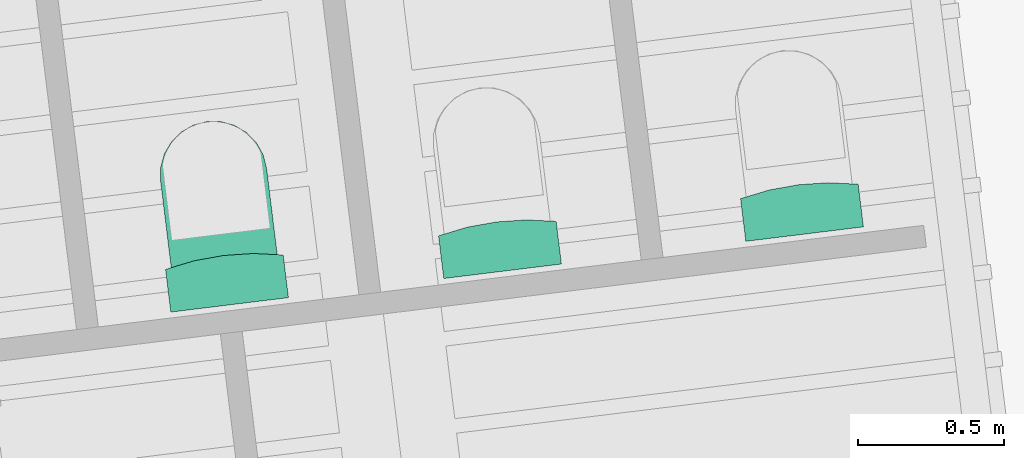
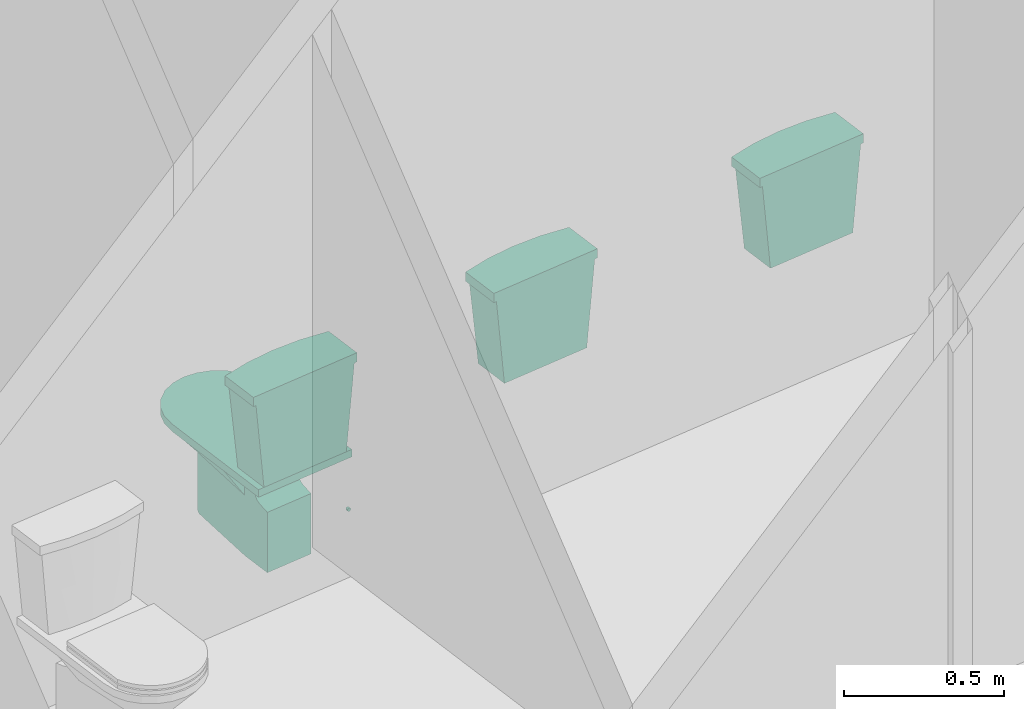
# One storey, part 53 of 75: 4 flow terminals.
"""IFC2X3 building model written with IfcOpenShell, lengths in metres."""

from ifc_helpers import new_model, entity, si_unit, converted_unit, derived_unit, direction, frame, origin, place, context, subcontext, project, spatial, faceted_brep, source, transform, mapped, material, material_list, type_object, type_shapes, element, save


model = new_model("IFC2X3")

# Units and contexts
model_context = context("Model", 3, precision=1e-05, world=origin(), true_north=direction((6.123031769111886e-17, 1.0)))
body_context = subcontext(model_context, "Body", "Model", "MODEL_VIEW")
ifc_project = project(units=[si_unit("LENGTHUNIT", "METRE"), si_unit("AREAUNIT", "SQUARE_METRE"), si_unit("VOLUMEUNIT", "CUBIC_METRE"), converted_unit("PLANEANGLEUNIT", "DEGREE", entity("IfcRatioMeasure", 0.017453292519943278), si_unit("PLANEANGLEUNIT", "RADIAN"), dimensions=[0, 0, 0, 0, 0, 0, 0]), si_unit("MASSUNIT", "GRAM", prefix="KILO"), derived_unit("MASSDENSITYUNIT", [(si_unit("MASSUNIT", "GRAM", prefix="KILO"), 1), (si_unit("LENGTHUNIT", "METRE"), -3)]), derived_unit("IONCONCENTRATIONUNIT", [(si_unit("MASSUNIT", "GRAM", prefix="KILO"), 1), (si_unit("LENGTHUNIT", "METRE"), -3)]), derived_unit("MOMENTOFINERTIAUNIT", [(si_unit("LENGTHUNIT", "METRE"), 4)]), si_unit("TIMEUNIT", "SECOND"), si_unit("FREQUENCYUNIT", "HERTZ"), si_unit("THERMODYNAMICTEMPERATUREUNIT", "DEGREE_CELSIUS"), derived_unit("THERMALTRANSMITTANCEUNIT", [(si_unit("MASSUNIT", "GRAM", prefix="KILO"), 1), (si_unit("THERMODYNAMICTEMPERATUREUNIT", "KELVIN"), -1), (si_unit("TIMEUNIT", "SECOND"), -3)]), derived_unit("THERMALCONDUCTANCEUNIT", [(si_unit("MASSUNIT", "GRAM", prefix="KILO"), 1), (si_unit("THERMODYNAMICTEMPERATUREUNIT", "KELVIN"), -1), (si_unit("TIMEUNIT", "SECOND"), -3), (si_unit("LENGTHUNIT", "METRE"), 1)]), derived_unit("VOLUMETRICFLOWRATEUNIT", [(si_unit("LENGTHUNIT", "METRE"), 3), (si_unit("TIMEUNIT", "SECOND"), -1)]), derived_unit("MASSFLOWRATEUNIT", [(si_unit("MASSUNIT", "GRAM", prefix="KILO"), 1), (si_unit("TIMEUNIT", "SECOND"), -1)]), derived_unit("ROTATIONALFREQUENCYUNIT", [(si_unit("TIMEUNIT", "SECOND"), -1)]), si_unit("ELECTRICCURRENTUNIT", "AMPERE"), si_unit("ELECTRICVOLTAGEUNIT", "VOLT"), si_unit("POWERUNIT", "WATT"), si_unit("FORCEUNIT", "NEWTON", prefix="KILO"), si_unit("ILLUMINANCEUNIT", "LUX"), si_unit("LUMINOUSFLUXUNIT", "LUMEN"), si_unit("LUMINOUSINTENSITYUNIT", "CANDELA"), derived_unit("USERDEFINED", [(si_unit("MASSUNIT", "GRAM", prefix="KILO"), -1), (si_unit("LENGTHUNIT", "METRE"), -2), (si_unit("TIMEUNIT", "SECOND"), 3), (si_unit("LUMINOUSFLUXUNIT", "LUMEN"), 1)]), derived_unit("USERDEFINED", [(si_unit("MASSUNIT", "GRAM", prefix="KILO"), 1), (si_unit("TIMEUNIT", "SECOND"), -3), (si_unit("LENGTHUNIT", "METRE"), 3), (si_unit("ELECTRICCURRENTUNIT", "AMPERE"), -2)]), derived_unit("SOUNDPOWERUNIT", [(si_unit("MASSUNIT", "GRAM", prefix="KILO"), 1), (si_unit("TIMEUNIT", "SECOND"), -3), (si_unit("LENGTHUNIT", "METRE"), 2)]), derived_unit("SOUNDPRESSUREUNIT", [(si_unit("MASSUNIT", "GRAM", prefix="KILO"), 1), (si_unit("LENGTHUNIT", "METRE"), -1), (si_unit("TIMEUNIT", "SECOND"), -2)]), derived_unit("LINEARVELOCITYUNIT", [(si_unit("LENGTHUNIT", "METRE"), 1), (si_unit("TIMEUNIT", "SECOND"), -1)]), si_unit("PRESSUREUNIT", "PASCAL"), derived_unit("USERDEFINED", [(si_unit("MASSUNIT", "GRAM", prefix="KILO"), 1), (si_unit("LENGTHUNIT", "METRE"), -2), (si_unit("TIMEUNIT", "SECOND"), -2)]), derived_unit("LINEARFORCEUNIT", [(si_unit("MASSUNIT", "GRAM", prefix="KILO"), 1), (si_unit("TIMEUNIT", "SECOND"), -2)]), derived_unit("PLANARFORCEUNIT", [(si_unit("MASSUNIT", "GRAM", prefix="KILO"), 1), (si_unit("LENGTHUNIT", "METRE"), -1), (si_unit("TIMEUNIT", "SECOND"), -2)]), derived_unit("SPECIFICHEATCAPACITYUNIT", [(si_unit("THERMODYNAMICTEMPERATUREUNIT", "KELVIN"), -1), (si_unit("LENGTHUNIT", "METRE"), 2), (si_unit("TIMEUNIT", "SECOND"), -2)]), derived_unit("HEATINGVALUEUNIT", [(si_unit("LENGTHUNIT", "METRE"), 2), (si_unit("TIMEUNIT", "SECOND"), -2)]), derived_unit("VAPORPERMEABILITYUNIT", [(si_unit("LENGTHUNIT", "METRE"), -1), (si_unit("TIMEUNIT", "SECOND"), 1)]), derived_unit("DYNAMICVISCOSITYUNIT", [(si_unit("MASSUNIT", "GRAM", prefix="KILO"), 1), (si_unit("TIMEUNIT", "SECOND"), -1), (si_unit("LENGTHUNIT", "METRE"), -1)]), derived_unit("THERMALEXPANSIONCOEFFICIENTUNIT", [(si_unit("THERMODYNAMICTEMPERATUREUNIT", "KELVIN"), -1)]), derived_unit("MODULUSOFELASTICITYUNIT", [(si_unit("MASSUNIT", "GRAM", prefix="KILO"), 1), (si_unit("LENGTHUNIT", "METRE"), -1), (si_unit("TIMEUNIT", "SECOND"), -2)]), derived_unit("ISOTHERMALMOISTURECAPACITYUNIT", [(si_unit("LENGTHUNIT", "METRE"), 3), (si_unit("MASSUNIT", "GRAM", prefix="KILO"), -1)]), derived_unit("MOISTUREDIFFUSIVITYUNIT", [(si_unit("TIMEUNIT", "SECOND"), -1), (si_unit("LENGTHUNIT", "METRE"), 2)])], contexts=[model_context])

# Site, building, storey
site_placement = place(None, origin())
site = spatial("IfcSite", under=ifc_project, at=site_placement, Name="Default", CompositionType="ELEMENT")
building_placement = place(site_placement, origin())
building = spatial("IfcBuilding", under=site, at=building_placement, Name="Projeto", CompositionType="ELEMENT")
storey_placement = place(building_placement, origin())
storey = spatial("IfcBuildingStorey", under=building, at=storey_placement, Name="Nível 1", CompositionType="ELEMENT", Elevation=0.0)

# Flow terminals
ifc_material_1 = material(Name="<Unnamed>")
ifc_material_2 = material(Name="Deca GE17 Branco Gelo Cerâmica")
ifc_material_list = material_list([ifc_material_1, ifc_material_2])
distribution_element_type_1 = type_object("IfcDistributionElementType", Name="Deca_Bacia Duna_P.707_Caixa Acoplada:Dual Flux 3 lpf / 6 lpf - Branco GE17", material=ifc_material_list)
shared_shape_1 = source(origin(), body_context, "Body", "Brep", [
    faceted_brep([(-0.013030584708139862, 0.005348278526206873, 0.25170370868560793), (-0.025089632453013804, 0.0053482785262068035, 0.2566987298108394), (-0.03544497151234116, 0.005348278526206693, 0.26464466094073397), (-0.04339090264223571, 0.00534827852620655, 0.27500000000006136), (-0.04838592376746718, 0.005348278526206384, 0.2870590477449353), (-0.05008963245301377, 0.005348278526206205, 0.30000000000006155), (-0.048385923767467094, 0.0053482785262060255, 0.31294095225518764), (-0.04339090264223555, 0.005348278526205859, 0.3250000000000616), (-0.03544497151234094, 0.005348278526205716, 0.3353553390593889), (-0.025089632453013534, 0.005348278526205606, 0.34330127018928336), (-0.013030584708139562, 0.005348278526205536, 0.3482962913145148), (-8.96324530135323e-05, 0.005348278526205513, 0.3500000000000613), (0.01285131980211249, 0.005348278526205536, 0.3482962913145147), (0.02491036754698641, 0.005348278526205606, 0.34330127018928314), (0.03526570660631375, 0.005348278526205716, 0.3353553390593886), (0.04321163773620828, 0.005348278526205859, 0.32500000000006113), (0.048206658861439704, 0.0053482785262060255, 0.31294095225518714), (0.049910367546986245, 0.005348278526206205, 0.30000000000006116), (0.048206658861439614, 0.005348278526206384, 0.2870590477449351), (0.04321163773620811, 0.00534827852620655, 0.2750000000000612), (0.03526570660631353, 0.005348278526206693, 0.26464466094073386), (0.024910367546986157, 0.0053482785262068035, 0.2566987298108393), (0.012851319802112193, 0.005348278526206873, 0.2517037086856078), (-8.963245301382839e-05, 0.005348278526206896, 0.2500000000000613), (-0.04339090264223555, 0.0, 0.32500000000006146), (-0.048385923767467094, 0.0, 0.31294095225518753), (-0.05008963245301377, 0.0, 0.3000000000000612), (-0.04838592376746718, 0.0, 0.2870590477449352), (-0.04339090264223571, 0.0, 0.27500000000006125), (-0.03544497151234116, 0.0, 0.2646446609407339), (-0.025089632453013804, 0.0, 0.25669872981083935), (-0.013030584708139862, 0.0, 0.2517037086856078), (-8.963245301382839e-05, 0.0, 0.25000000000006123), (0.012851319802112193, 0.0, 0.25170370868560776), (0.024910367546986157, 0.0, 0.25669872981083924), (0.03526570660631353, 0.0, 0.2646446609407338), (0.04321163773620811, 0.0, 0.27500000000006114), (0.048206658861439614, 0.0, 0.28705904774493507), (0.049910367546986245, 0.0, 0.30000000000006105), (0.048206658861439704, 0.0, 0.3129409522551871), (0.04321163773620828, 0.0, 0.3250000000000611), (0.03526570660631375, 0.0, 0.33535533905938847), (0.02491036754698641, 0.0, 0.343301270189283), (0.01285131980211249, 0.0, 0.3482962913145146), (-8.96324530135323e-05, 0.0, 0.35000000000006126), (-0.013030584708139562, 0.0, 0.3482962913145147), (-0.025089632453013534, 0.0, 0.3433012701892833), (-0.03544497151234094, 0.0, 0.33535533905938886)], [[[0, 1, 2, 3, 4, 5, 6, 7, 8, 9, 10, 11, 12, 13, 14, 15, 16, 17, 18, 19, 20, 21, 22, 23]], [[24, 25, 26, 27, 28, 29, 30, 31, 32, 33, 34, 35, 36, 37, 38, 39, 40, 41, 42, 43, 44, 45, 46, 47]], [[16, 39, 38, 17]], [[15, 40, 39, 16]], [[42, 41, 14, 13]], [[15, 14, 41, 40]], [[43, 42, 13, 12]], [[44, 43, 12, 11]], [[10, 45, 44, 11]], [[9, 46, 45, 10]], [[24, 47, 8, 7]], [[9, 8, 47, 46]], [[25, 24, 7, 6]], [[26, 25, 6, 5]], [[4, 27, 26, 5]], [[3, 28, 27, 4]], [[30, 29, 2, 1]], [[3, 2, 29, 28]], [[31, 30, 1, 0]], [[32, 31, 0, 23]], [[22, 33, 32, 23]], [[21, 34, 33, 22]], [[36, 35, 20, 19]], [[21, 20, 35, 34]], [[37, 36, 19, 18]], [[38, 37, 18, 17]]]),
    faceted_brep([(0.003594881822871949, 0.3715076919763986, 0.2169121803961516), (-0.18010254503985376, 0.37150769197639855, 0.21691218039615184), (-0.18010254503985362, 0.3715076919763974, 0.30223566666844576), (-0.18010254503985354, 0.37150769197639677, 0.34441218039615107), (-0.18010254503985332, 0.371507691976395, 0.47191218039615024), (-0.17398801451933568, 0.3715076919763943, 0.5183566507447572), (-0.15606111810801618, 0.3715076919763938, 0.5616360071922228), (-0.12754354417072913, 0.3715076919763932, 0.5988008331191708), (-0.09037871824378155, 0.3715076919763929, 0.6273184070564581), (-0.047099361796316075, 0.37150769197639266, 0.6452453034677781), (-0.0006548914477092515, 0.37150769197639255, 0.6513598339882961), (0.0457895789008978, 0.3715076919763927, 0.6452453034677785), (0.08906893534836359, 0.3715076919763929, 0.627318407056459), (0.12623376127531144, 0.37150769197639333, 0.598800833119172), (0.15475133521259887, 0.37150769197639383, 0.5616360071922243), (0.17267823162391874, 0.37150769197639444, 0.5183566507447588), (0.1787927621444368, 0.37150769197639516, 0.4719121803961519), (0.17879276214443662, 0.3715076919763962, 0.38535083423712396), (0.17879276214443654, 0.3715076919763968, 0.34441218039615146), (0.17879276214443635, 0.37150769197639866, 0.216912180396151), (0.003594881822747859, 0.2301144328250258, 0.21691218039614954), (0.08879276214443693, 0.23011443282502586, 0.2169121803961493), (0.08135757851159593, 0.23011443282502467, 0.3018967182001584), (0.07349704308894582, 0.23011443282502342, 0.39174304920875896), (0.06563650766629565, 0.2301144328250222, 0.4815893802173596), (0.060879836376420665, 0.23011443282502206, 0.4929443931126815), (0.05612316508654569, 0.23011443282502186, 0.5042994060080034), (0.04739476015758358, 0.23011443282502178, 0.5129814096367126), (0.03866635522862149, 0.23011443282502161, 0.5216634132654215), (0.02728614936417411, 0.2301144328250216, 0.5263594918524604), (0.015905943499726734, 0.23011443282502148, 0.5310555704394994), (0.0035948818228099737, 0.23011443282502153, 0.5310555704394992), (-0.008716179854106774, 0.23011443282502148, 0.5310555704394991), (-0.020096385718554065, 0.2301144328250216, 0.5263594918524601), (-0.03147659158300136, 0.2301144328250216, 0.521663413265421), (-0.0402049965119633, 0.23011443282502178, 0.5129814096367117), (-0.048933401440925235, 0.23011443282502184, 0.5042994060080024), (-0.053690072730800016, 0.23011443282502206, 0.49294439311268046), (-0.05844674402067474, 0.23011443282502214, 0.48158938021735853), (-0.06610674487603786, 0.2301144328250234, 0.3940351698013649), (-0.07385487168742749, 0.23011443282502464, 0.3054736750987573), (-0.08160299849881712, 0.23011443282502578, 0.21691218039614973), (0.12339332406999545, 0.29423178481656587, 0.3446660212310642), (0.14378467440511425, 0.31650871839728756, 0.21691218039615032), (0.1189286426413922, 0.2927387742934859, 0.41323129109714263), (0.13477738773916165, 0.31650872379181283, 0.4756764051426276), (0.1222146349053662, 0.30081106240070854, 0.4767507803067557), (-0.12004904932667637, 0.2944006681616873, 0.3475461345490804), (-0.13171801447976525, 0.31527324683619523, 0.4757609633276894), (-0.1214550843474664, 0.29186369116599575, 0.28010337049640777), (-0.11927464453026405, 0.30081106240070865, 0.47675078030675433), (-0.1409276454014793, 0.31527325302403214, 0.216912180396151), (-0.10880249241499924, 0.29823220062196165, 0.5148337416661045), (-0.0951565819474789, 0.29586402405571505, 0.5362892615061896), (0.09839395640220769, 0.29586402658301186, 0.536289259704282), (0.11189751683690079, 0.29823221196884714, 0.5148337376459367), (0.015909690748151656, 0.30276951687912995, 0.5926011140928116), (-0.010981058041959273, 0.29984585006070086, 0.5903491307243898), (-0.05869502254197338, 0.295864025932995, 0.5708816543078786), (-0.036335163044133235, 0.2977191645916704, 0.5829795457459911), (-0.08011624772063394, 0.29640373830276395, 0.554957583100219), (0.08332117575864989, 0.2964037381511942, 0.5549575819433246), (0.04001913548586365, 0.2978798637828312, 0.5829307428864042), (0.0619323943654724, 0.2958640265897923, 0.5708816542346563)], [[[0, 1, 2, 3, 4, 5, 6, 7, 8, 9, 10, 11, 12, 13, 14, 15, 16, 17, 18, 19]], [[20, 21, 22, 23, 24, 25, 26, 27, 28, 29, 30, 31, 32, 33, 34, 35, 36, 37, 38, 39, 40, 41]], [[42, 43, 18]], [[24, 23, 44]], [[22, 21, 43]], [[19, 18, 43]], [[23, 42, 44]], [[17, 45, 44]], [[22, 42, 23]], [[43, 42, 22]], [[18, 17, 42]], [[45, 17, 16]], [[17, 44, 42]], [[44, 45, 46, 24]], [[47, 48, 3]], [[41, 40, 49]], [[39, 38, 50, 48]], [[4, 3, 48]], [[40, 47, 49]], [[2, 51, 49]], [[39, 47, 40]], [[48, 47, 39]], [[3, 2, 47]], [[51, 2, 1]], [[2, 49, 47]], [[41, 49, 51]], [[0, 19, 43, 21, 20, 41, 51, 1]], [[37, 52, 50]], [[52, 36, 53]], [[35, 53, 36]], [[26, 54, 27]], [[25, 46, 55]], [[52, 53, 6]], [[31, 56, 57]], [[58, 59, 8]], [[7, 53, 60]], [[53, 35, 60]], [[53, 7, 6]], [[7, 60, 58]], [[37, 36, 52]], [[52, 6, 5]], [[58, 34, 33]], [[35, 34, 60]], [[9, 59, 57]], [[5, 50, 52]], [[10, 57, 56]], [[9, 57, 10]], [[61, 54, 13]], [[32, 59, 33]], [[58, 60, 34]], [[57, 32, 31]], [[8, 59, 9]], [[55, 15, 14]], [[30, 29, 62]], [[63, 61, 13]], [[55, 26, 25]], [[13, 54, 14]], [[61, 27, 54]], [[14, 54, 55]], [[15, 46, 45, 16]], [[63, 13, 12]], [[55, 46, 15]], [[24, 46, 25]], [[28, 27, 61]], [[54, 26, 55]], [[56, 31, 30]], [[59, 32, 57]], [[11, 56, 62]], [[11, 10, 56]], [[63, 29, 28]], [[29, 63, 62]], [[59, 58, 33]], [[58, 8, 7]], [[61, 63, 28]], [[62, 12, 11]], [[62, 63, 12]], [[30, 62, 56]], [[5, 4, 48, 50]], [[38, 37, 50]]]),
    faceted_brep([(0.003125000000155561, 0.0, 0.2169121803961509), (0.08840864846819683, 0.0, 0.21691218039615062), (0.06516662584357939, 0.0, 0.48256971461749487), (0.05988022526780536, 0.0, 0.49717859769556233), (0.0512118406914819, 0.0, 0.510071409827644), (0.03967801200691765, 0.0, 0.5204798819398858), (0.025966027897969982, 0.0, 0.5277837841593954), (0.010892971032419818, 0.0, 0.5315478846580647), (-0.0046429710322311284, 0.0, 0.5315478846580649), (-0.019716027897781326, 0.0, 0.5277837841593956), (-0.03342801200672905, 0.0, 0.5204798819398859), (-0.04496184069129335, 0.0, 0.5100714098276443), (-0.053630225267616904, 0.0, 0.4971785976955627), (-0.05891662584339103, 0.0, 0.48256971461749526), (-0.08215864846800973, 0.0, 0.21691218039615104), (-0.0046429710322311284, 0.23011443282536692, 0.5315478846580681), (0.010892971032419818, 0.23011443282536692, 0.531547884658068), (0.025966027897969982, 0.23011443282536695, 0.5277837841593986), (0.03967801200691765, 0.23011443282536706, 0.5204798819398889), (0.0512118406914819, 0.23011443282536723, 0.5100714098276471), (0.05988022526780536, 0.2301144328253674, 0.49717859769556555), (0.06516662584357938, 0.2301144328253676, 0.48256971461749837), (0.08840864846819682, 0.23011443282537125, 0.21691218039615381), (0.003125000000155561, 0.23011443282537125, 0.2169121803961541), (-0.08215864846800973, 0.23011443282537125, 0.21691218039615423), (-0.05891662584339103, 0.2301144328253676, 0.48256971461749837), (-0.053630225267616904, 0.2301144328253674, 0.4971785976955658), (-0.04496184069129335, 0.23011443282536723, 0.5100714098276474), (-0.03342801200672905, 0.23011443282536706, 0.520479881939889), (-0.019716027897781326, 0.23011443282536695, 0.5277837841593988)], [[[0, 1, 2, 3, 4, 5, 6, 7, 8, 9, 10, 11, 12, 13, 14]], [[15, 16, 17, 18, 19, 20, 21, 22, 23, 24, 25, 26, 27, 28, 29]], [[2, 1, 22, 21]], [[14, 13, 25, 24]], [[0, 14, 24, 23, 22, 1]], [[3, 20, 19, 4]], [[21, 20, 3, 2]], [[5, 18, 17, 6]], [[19, 18, 5, 4]], [[6, 17, 16, 7]], [[16, 15, 8, 7]], [[8, 15, 29, 9]], [[28, 10, 9, 29]], [[11, 27, 26, 12]], [[28, 27, 11, 10]], [[12, 26, 25, 13]]]),
    faceted_brep([(-0.1455098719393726, 0.20449012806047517, -0.00923038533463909), (-0.14450073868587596, 0.20317499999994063, -0.00923038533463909), (-0.1438663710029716, 0.20164350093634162, -0.00923038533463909), (-0.14364999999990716, 0.1999999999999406, -0.00923038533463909), (-0.1438663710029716, 0.19835649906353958, -0.00923038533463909), (-0.14450073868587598, 0.1968249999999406, -0.00923038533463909), (-0.1455098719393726, 0.19550987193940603, -0.00923038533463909), (-0.1468249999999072, 0.19450073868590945, -0.00923038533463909), (-0.14835649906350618, 0.19386637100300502, -0.00923038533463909), (-0.14999999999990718, 0.19364999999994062, -0.00923038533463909), (-0.15164350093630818, 0.19386637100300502, -0.00923038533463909), (-0.1531749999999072, 0.19450073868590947, -0.00923038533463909), (-0.15449012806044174, 0.19550987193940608, -0.00923038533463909), (-0.15549926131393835, 0.19682499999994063, -0.00923038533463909), (-0.15613362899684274, 0.19835649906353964, -0.00923038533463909), (-0.15634999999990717, 0.19999999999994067, -0.00923038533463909), (-0.15613362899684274, 0.20164350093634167, -0.00923038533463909), (-0.15549926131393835, 0.20317499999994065, -0.00923038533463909), (-0.1544901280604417, 0.20449012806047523, -0.00923038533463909), (-0.15317499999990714, 0.2054992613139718, -0.00923038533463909), (-0.15164350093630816, 0.2061336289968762, -0.00923038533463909), (-0.14999999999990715, 0.20634999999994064, -0.00923038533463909), (-0.14835649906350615, 0.2061336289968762, -0.00923038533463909), (-0.14682499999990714, 0.2054992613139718, -0.00923038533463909), (-0.1468249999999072, 0.19450073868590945, 0.0), (-0.1455098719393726, 0.19550987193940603, 0.0), (-0.14450073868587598, 0.1968249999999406, 0.0), (-0.1438663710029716, 0.19835649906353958, 0.0), (-0.14364999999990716, 0.19999999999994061, 0.0), (-0.1438663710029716, 0.20164350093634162, 0.0), (-0.14450073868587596, 0.20317499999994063, 0.0), (-0.1455098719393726, 0.20449012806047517, 0.0), (-0.14682499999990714, 0.2054992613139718, 0.0), (-0.14835649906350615, 0.2061336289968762, 0.0), (-0.14999999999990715, 0.20634999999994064, 0.0), (-0.15164350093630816, 0.2061336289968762, 0.0), (-0.15317499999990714, 0.2054992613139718, 0.0), (-0.1544901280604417, 0.20449012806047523, 0.0), (-0.15549926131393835, 0.20317499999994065, 0.0), (-0.15613362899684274, 0.20164350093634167, 0.0), (-0.15634999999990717, 0.19999999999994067, 0.0), (-0.15613362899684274, 0.19835649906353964, 0.0), (-0.15549926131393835, 0.19682499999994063, 0.0), (-0.15449012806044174, 0.19550987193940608, 0.0), (-0.1531749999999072, 0.19450073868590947, 0.0), (-0.15164350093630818, 0.19386637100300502, 0.0), (-0.14999999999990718, 0.19364999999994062, 0.0), (-0.14835649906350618, 0.19386637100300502, 0.0)], [[[0, 1, 2, 3, 4, 5, 6, 7, 8, 9, 10, 11, 12, 13, 14, 15, 16, 17, 18, 19, 20, 21, 22, 23]], [[24, 25, 26, 27, 28, 29, 30, 31, 32, 33, 34, 35, 36, 37, 38, 39, 40, 41, 42, 43, 44, 45, 46, 47]], [[14, 41, 40, 15]], [[13, 42, 41, 14]], [[44, 43, 12, 11]], [[13, 12, 43, 42]], [[45, 44, 11, 10]], [[46, 45, 10, 9]], [[8, 47, 46, 9]], [[7, 24, 47, 8]], [[26, 25, 6, 5]], [[7, 6, 25, 24]], [[27, 26, 5, 4]], [[28, 27, 4, 3]], [[2, 29, 28, 3]], [[1, 30, 29, 2]], [[32, 31, 0, 23]], [[1, 0, 31, 30]], [[33, 32, 23, 22]], [[34, 33, 22, 21]], [[20, 35, 34, 21]], [[19, 36, 35, 20]], [[38, 37, 18, 17]], [[19, 18, 37, 36]], [[39, 38, 17, 16]], [[40, 39, 16, 15]]]),
    faceted_brep([(0.08859628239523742, 0.0, 0.09879143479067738), (0.08859628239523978, 0.23011443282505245, 0.09879143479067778), (0.0885962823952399, 0.2403078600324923, 0.13798298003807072), (0.08859628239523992, 0.2437334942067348, 0.14643480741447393), (0.08859628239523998, 0.24922587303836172, 0.15371506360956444), (0.08859628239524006, 0.25641226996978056, 0.15932969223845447), (0.08859628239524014, 0.2648049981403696, 0.162897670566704), (0.08859628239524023, 0.27383450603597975, 0.16417686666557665), (0.08859628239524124, 0.3715076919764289, 0.16417686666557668), (0.08859628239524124, 0.37150769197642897, 0.2169121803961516), (0.08859628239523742, 0.0, 0.21691218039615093), (-0.08234628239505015, 0.37150769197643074, 0.2169121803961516), (-0.08234628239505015, 0.3715076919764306, 0.16417686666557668), (-0.08234628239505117, 0.27383450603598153, 0.16417686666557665), (-0.08234628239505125, 0.26480499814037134, 0.162897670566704), (-0.08234628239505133, 0.25641226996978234, 0.15932969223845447), (-0.08234628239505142, 0.24922587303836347, 0.15371506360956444), (-0.08234628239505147, 0.24373349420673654, 0.14643480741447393), (-0.0823462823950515, 0.24030786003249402, 0.1379829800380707), (-0.08234628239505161, 0.2301144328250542, 0.09879143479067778), (-0.08234628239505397, 0.0, 0.09879143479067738), (-0.08234628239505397, 0.0, 0.21691218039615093)], [[[0, 1, 2, 3, 4, 5, 6, 7, 8, 9, 10]], [[11, 12, 13, 14, 15, 16, 17, 18, 19, 20, 21]], [[2, 1, 19, 18]], [[3, 2, 18, 17]], [[4, 3, 17, 16]], [[16, 15, 5, 4]], [[6, 5, 15, 14]], [[7, 6, 14, 13]], [[8, 7, 13, 12]], [[9, 8, 12, 11]], [[1, 0, 20, 19]], [[10, 9, 11, 21]], [[0, 10, 21, 20]]]),
    faceted_brep([(0.18249999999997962, 0.39999999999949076, 0.020115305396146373), (-0.18249999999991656, 0.39999999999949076, 0.020115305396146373), (-0.18249999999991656, 0.39999999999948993, 0.46886530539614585), (-0.1762814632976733, 0.3999999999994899, 0.5160997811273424), (-0.15804963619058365, 0.3999999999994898, 0.5601153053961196), (-0.12904698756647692, 0.3999999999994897, 0.5979122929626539), (-0.09124999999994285, 0.39999999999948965, 0.6269149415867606), (-0.047234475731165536, 0.39999999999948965, 0.6451467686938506), (0.0, 0.39999999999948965, 0.6513653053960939), (0.04723447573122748, 0.39999999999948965, 0.6451467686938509), (0.09125000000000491, 0.39999999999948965, 0.6269149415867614), (0.12904698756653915, 0.3999999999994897, 0.5979122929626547), (0.15804963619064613, 0.3999999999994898, 0.5601153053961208), (0.17628146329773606, 0.3999999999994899, 0.5160997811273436), (0.18249999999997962, 0.39999999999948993, 0.46886530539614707), (0.0, 0.371507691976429, 0.6513653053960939), (-0.047234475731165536, 0.371507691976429, 0.6451467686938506), (-0.09124999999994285, 0.371507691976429, 0.6269149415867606), (-0.12904698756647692, 0.37150769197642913, 0.5979122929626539), (-0.15804963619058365, 0.3715076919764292, 0.5601153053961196), (-0.1762814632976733, 0.37150769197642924, 0.5160997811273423), (-0.18249999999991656, 0.3715076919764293, 0.46886530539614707), (-0.18249999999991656, 0.37150769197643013, 0.020115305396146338), (0.18249999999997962, 0.37150769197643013, 0.020115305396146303), (0.18249999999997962, 0.3715076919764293, 0.46886530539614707), (0.17628146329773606, 0.37150769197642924, 0.5160997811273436), (0.15804963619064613, 0.3715076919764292, 0.5601153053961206), (0.12904698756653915, 0.37150769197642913, 0.5979122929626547), (0.09125000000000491, 0.371507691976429, 0.6269149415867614), (0.04723447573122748, 0.371507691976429, 0.6451467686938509)], [[[0, 1, 2, 3, 4, 5, 6, 7, 8, 9, 10, 11, 12, 13, 14]], [[15, 16, 17, 18, 19, 20, 21, 22, 23, 24, 25, 26, 27, 28, 29]], [[2, 1, 22, 21]], [[0, 14, 24, 23]], [[1, 0, 23, 22]], [[20, 3, 2, 21]], [[19, 4, 3, 20]], [[6, 5, 18, 17]], [[19, 18, 5, 4]], [[7, 6, 17, 16]], [[8, 7, 16, 15]], [[29, 9, 8, 15]], [[28, 10, 9, 29]], [[12, 11, 27, 26]], [[28, 27, 11, 10]], [[13, 12, 26, 25]], [[14, 13, 25, 24]]]),
])
type_shapes(distribution_element_type_1, [shared_shape_1])
flow_terminal_placement = place(storey_placement, frame((-16.866706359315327, 28.930547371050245, -2.574999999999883), z_axis=(-0.12215242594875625, 0.9925113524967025, 0.0), x_axis=(-0.9925113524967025, -0.12215242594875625, 0.0)))
element("IfcFlowTerminal", 1, at=flow_terminal_placement, inside=storey, type_object=distribution_element_type_1, material=ifc_material_list, Name="Deca_Bacia Duna_P.707_Caixa Acoplada:Dual Flux 3 lpf / 6 lpf - Branco GE17", ObjectType="Deca_Bacia Duna_P.707_Caixa Acoplada:Dual Flux 3 lpf / 6 lpf - Branco GE17", context=body_context, shape_type="MappedRepresentation", body=[
    mapped(shared_shape_1, transform((0.0, 0.0, 0.0), scale=1.0)),
])
distribution_element_type_2 = type_object("IfcDistributionElementType", Name="Deca_Shared_Caixa Acoplada_P.707:Dual Flux 3 lpf / 6 lpf - Branco GE17", material=ifc_material_2)
shared_shape_2 = source(origin(), body_context, "Body", "Brep", [
    faceted_brep([(0.16104117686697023, 0.0, 0.13556284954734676), (0.08089912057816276, 0.0, 0.14721831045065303), (0.0, 0.0, 0.15095076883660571), (-0.08089912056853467, 0.0, 0.1472183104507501), (-0.16104117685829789, 0.0, 0.1355628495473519), (-0.16104117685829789, 0.0, 2.424032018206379e-06), (0.1610411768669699, 0.0, 2.424032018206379e-06), (0.19226276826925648, 0.3250888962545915, 2.424032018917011e-06), (-0.19226276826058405, 0.3250888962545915, 2.424032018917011e-06), (-0.19226276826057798, 0.3250888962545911, 0.14159522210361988), (-0.09670881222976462, 0.32508889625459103, 0.15729507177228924), (0.0, 0.32508889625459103, 0.16223970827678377), (0.09670881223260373, 0.32508889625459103, 0.15729507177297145), (0.19226276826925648, 0.3250888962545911, 0.1415952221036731), (-0.1725797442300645, 0.12014314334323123, 0.13779223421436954), (-0.057231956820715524, 0.162544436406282, 0.15487758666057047), (-0.11135092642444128, 0.16254444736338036, 0.1496496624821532), (0.0, 0.12014314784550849, 0.1551228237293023), (0.12025459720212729, 0.16254443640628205, 0.14845002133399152), (0.06619470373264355, 0.16254444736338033, 0.1542550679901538), (0.17257974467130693, 0.12014314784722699, 0.1377922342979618)], [[[0, 1, 2, 3, 4, 5, 6]], [[7, 8, 9, 10, 11, 12, 13]], [[8, 5, 4, 14, 9]], [[10, 15, 11]], [[4, 16, 9, 14]], [[3, 2, 15]], [[16, 3, 15]], [[11, 15, 2, 17]], [[16, 15, 10]], [[9, 16, 10]], [[4, 3, 16]], [[12, 18, 13]], [[2, 19, 11, 17]], [[1, 0, 18]], [[19, 1, 18]], [[13, 18, 0, 20]], [[19, 18, 12]], [[11, 19, 12]], [[2, 1, 19]], [[6, 7, 13, 20, 0]], [[5, 8, 7, 6]]]),
    faceted_brep([(-0.10192093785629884, 0.3600000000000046, 0.1643272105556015), (-2.4240372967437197e-06, 0.3600000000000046, 0.16999999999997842), (0.10191608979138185, 0.3600000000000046, 0.16432721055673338), (0.20249757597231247, 0.3600000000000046, 0.1469223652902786), (0.20249757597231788, 0.36000000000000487, 0.0), (-0.20250242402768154, 0.36000000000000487, 0.0), (-0.20250242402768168, 0.3600000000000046, 0.14692236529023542), (-0.20250242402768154, 0.3250888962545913, 0.0), (0.20249757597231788, 0.3250888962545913, 0.0), (0.20249757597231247, 0.32508889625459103, 0.14692236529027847), (0.10191608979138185, 0.32508889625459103, 0.16432721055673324), (-2.4240372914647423e-06, 0.32508889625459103, 0.16999999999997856), (-0.10192093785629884, 0.32508889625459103, 0.16432721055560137), (-0.20250242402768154, 0.32508889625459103, 0.14692236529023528)], [[[0, 1, 2, 3, 4, 5, 6]], [[7, 8, 9, 10, 11, 12, 13]], [[6, 5, 7, 13]], [[13, 12, 0, 6]], [[0, 12, 11, 1]], [[11, 10, 2, 1]], [[2, 10, 9, 3]], [[4, 3, 9, 8]], [[5, 4, 8, 7]]]),
])
type_shapes(distribution_element_type_2, [shared_shape_2])
for number, where, z_axis, x_axis, name in (
    (2, (-15.936191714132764, 29.065220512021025, -2.1749974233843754), (-0.12215242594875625, 0.9925113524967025, 0.0), (-0.9925113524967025, -0.12215242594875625, 0.0), "Deca_Shared_Caixa Acoplada_P.707:Dual Flux 3 lpf / 6 lpf - Branco GE17"),
    (3, (-16.869152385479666, 28.950397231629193, -2.1749974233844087), (-0.12215242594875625, 0.9925113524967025, 0.0), (-0.9925113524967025, -0.12215242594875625, 0.0), "Deca_Shared_Caixa Acoplada_P.707:Dual Flux 3 lpf / 6 lpf - Branco GE17"),
    (4, (-14.903979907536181, 29.192259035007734, -2.174997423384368), (-0.12215242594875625, 0.9925113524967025, 0.0), (-0.9925113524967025, -0.12215242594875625, 0.0), "Deca_Shared_Caixa Acoplada_P.707:Dual Flux 3 lpf / 6 lpf - Branco GE17"),
):
    element("IfcFlowTerminal", number, at=place(storey_placement, frame(where, z_axis=z_axis, x_axis=x_axis)), inside=storey, type_object=distribution_element_type_2, material=ifc_material_2, Name=name, ObjectType="Deca_Shared_Caixa Acoplada_P.707:Dual Flux 3 lpf / 6 lpf - Branco GE17", context=body_context, shape_type="MappedRepresentation", body=[
        mapped(shared_shape_2, transform((0.0, 0.0, 0.0), scale=1.0)),
    ])

save(model, "model.ifc")
